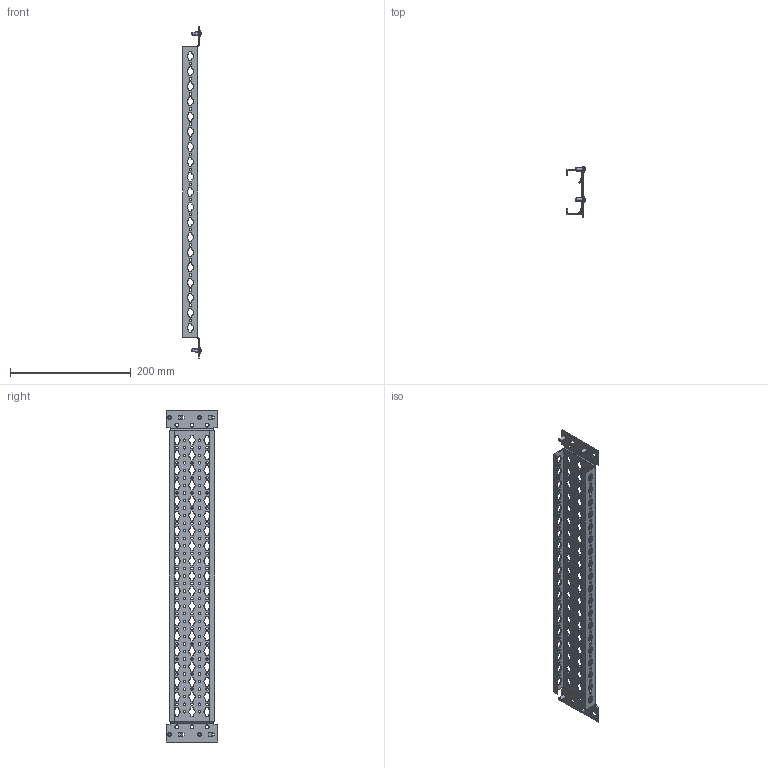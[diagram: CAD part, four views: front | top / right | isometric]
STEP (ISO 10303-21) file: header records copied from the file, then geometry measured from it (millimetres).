
FILE_DESCRIPTION(('Open CASCADE Model'),'2;1');
FILE_NAME('Open CASCADE Shape Model','2025-02-24T09:57:54',('Author'),( 'Open CASCADE'),'Open CASCADE STEP processor 7.8','Open CASCADE 7.8' ,'Unknown');
FILE_SCHEMA(('AUTOMOTIVE_DESIGN { 1 0 10303 214 1 1 1 1 }'));
Length unit declared in the file: millimetre
Products named in the file (3): Compound1; Solid1; Solid2
Assembly tree (5 placements, depth 2):
  Compound1
    Solid1
    Solid2  x4
Bounding box: 30.36 x 85 x 550.04 mm (x, y, z)
Volume: 90179.7 mm3; surface area: 131662.6 mm2
Topology: 5 solids, 5 shells, 1932 faces, 5695 edges, 3777 vertices
Faces by surface type: cylinder 1140, plane 768, torus 8, cone 8, sphere 4, bspline 4
Full cylindrical faces by diameter (mm): 4.2 x164, 5 x4, 6.5 x10, 9.5 x4
Entity records: 65382 total; most frequent: CARTESIAN_POINT 11766, DIRECTION 11484, ORIENTED_EDGE 11208, EDGE_CURVE 5604, AXIS2_PLACEMENT_3D 4180, VERTEX_POINT 3726, LINE 3124, VECTOR 3124
